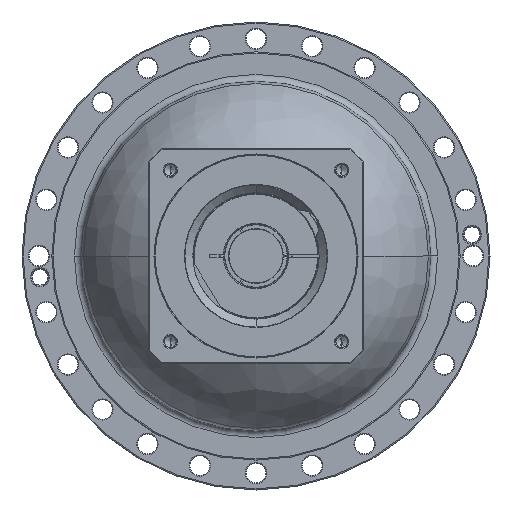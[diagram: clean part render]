
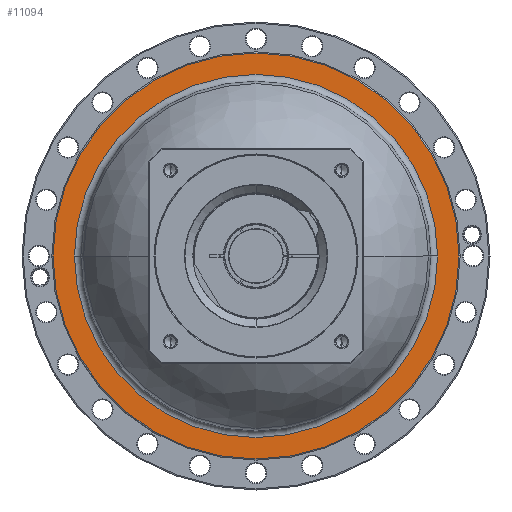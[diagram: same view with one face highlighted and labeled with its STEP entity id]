
A CAD part, left-side view. The second image highlights one B-rep face of the part: STEP entity #11094.
In plain terms, the highlighted planar face has unit normal (-1, 0, 0) as drawn and (1, 0, 0) by its records, which use the part's own axes.
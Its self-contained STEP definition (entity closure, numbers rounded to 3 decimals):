
#10543=CARTESIAN_POINT('',(-143.,0.,0.));
#10544=DIRECTION('',(-1.,0.,0.));
#10545=DIRECTION('',(0.,-1.,0.));
#10546=AXIS2_PLACEMENT_3D('',#10543,#10544,#10545);
#10548=CARTESIAN_POINT('',(-143.,0.,0.));
#10549=DIRECTION('',(-1.,0.,0.));
#10550=DIRECTION('',(0.,1.,0.));
#10551=AXIS2_PLACEMENT_3D('',#10548,#10549,#10550);
#10553=CARTESIAN_POINT('',(-143.,0.,0.));
#10554=DIRECTION('',(-1.,0.,0.));
#10555=DIRECTION('',(0.,-1.,0.));
#10556=AXIS2_PLACEMENT_3D('',#10553,#10554,#10555);
#10558=CARTESIAN_POINT('',(-143.,0.,0.));
#10559=DIRECTION('',(-1.,0.,0.));
#10560=DIRECTION('',(0.,1.,0.));
#10561=AXIS2_PLACEMENT_3D('',#10558,#10559,#10560);
#10683=CARTESIAN_POINT('',(-143.,-180.,0.));
#10684=CARTESIAN_POINT('',(-143.,180.,0.));
#10685=VERTEX_POINT('',#10683);
#10686=VERTEX_POINT('',#10684);
#10703=CARTESIAN_POINT('',(-143.,-161.,0.));
#10704=CARTESIAN_POINT('',(-143.,161.,0.));
#10705=VERTEX_POINT('',#10703);
#10706=VERTEX_POINT('',#10704);
#11079=CARTESIAN_POINT('',(-143.,0.,0.));
#11080=DIRECTION('',(1.,0.,0.));
#11081=DIRECTION('',(0.,-1.,0.));
#11082=AXIS2_PLACEMENT_3D('',#11079,#11080,#11081);
#11083=PLANE('',#11082);
#11085=ORIENTED_EDGE('',*,*,#11084,.T.);
#11087=ORIENTED_EDGE('',*,*,#11086,.T.);
#11088=EDGE_LOOP('',(#11085,#11087));
#11089=FACE_OUTER_BOUND('',#11088,.F.);
#11090=ORIENTED_EDGE('',*,*,#11059,.F.);
#11091=ORIENTED_EDGE('',*,*,#11073,.F.);
#11092=EDGE_LOOP('',(#11090,#11091));
#11093=FACE_BOUND('',#11092,.F.);
#11094=ADVANCED_FACE('',(#11089,#11093),#11083,.T.);
#10547=CIRCLE('',#10546,161.);
#10552=CIRCLE('',#10551,161.);
#10557=CIRCLE('',#10556,180.);
#10562=CIRCLE('',#10561,180.);
#11059=EDGE_CURVE('',#10705,#10706,#10547,.T.);
#11073=EDGE_CURVE('',#10706,#10705,#10552,.T.);
#11084=EDGE_CURVE('',#10685,#10686,#10557,.T.);
#11086=EDGE_CURVE('',#10686,#10685,#10562,.T.);
